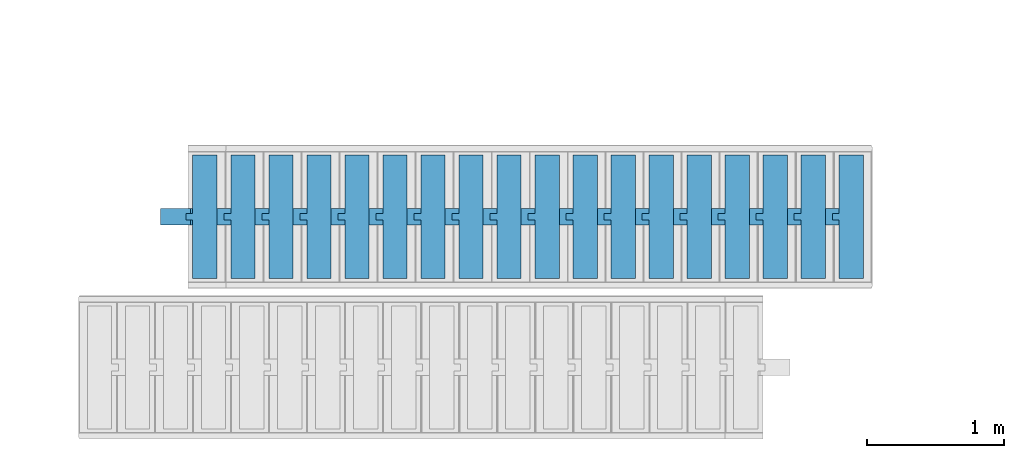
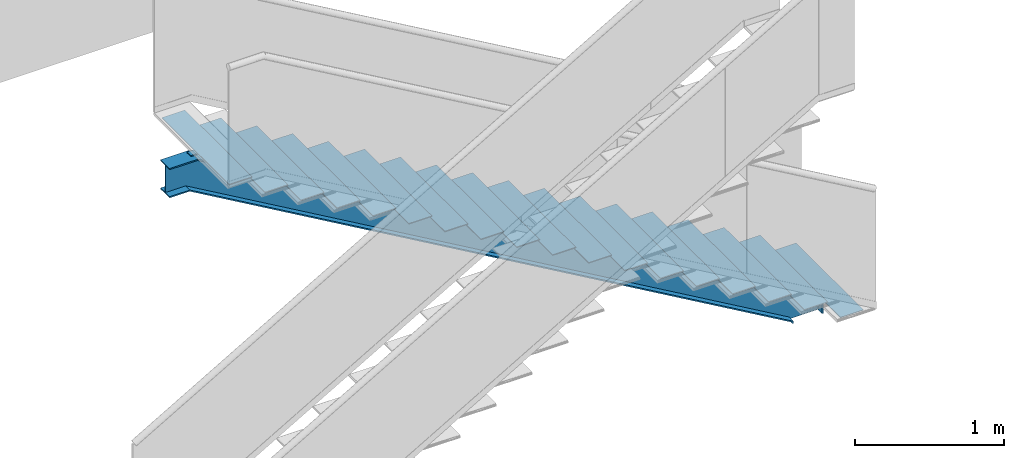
# One storey, part 4 of 22: 1 stair, 1 element without a shape of its own.
"""IFC2X3 building model written with IfcOpenShell, lengths in millimetres."""

from ifc_helpers import new_model, entity, si_unit, converted_unit, derived_unit, direction, frame, origin, place, context, subcontext, project, spatial, face_set, surface_model, material, element, aggregate, save


model = new_model("IFC2X3")

# Units and contexts
model_context = context("Model", 3, precision=0.01, world=origin(), true_north=direction((6.12303176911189e-17, 1.0)))
body_context = subcontext(model_context, "Body", "Model", "MODEL_VIEW")
ifc_project = project(units=[si_unit("LENGTHUNIT", "METRE", prefix="MILLI"), si_unit("AREAUNIT", "SQUARE_METRE"), si_unit("VOLUMEUNIT", "CUBIC_METRE"), converted_unit("PLANEANGLEUNIT", "DEGREE", entity("IfcRatioMeasure", 0.0174532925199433), si_unit("PLANEANGLEUNIT", "RADIAN"), dimensions=[0, 0, 0, 0, 0, 0, 0]), si_unit("MASSUNIT", "GRAM", prefix="KILO"), derived_unit("MASSDENSITYUNIT", [(si_unit("MASSUNIT", "GRAM", prefix="KILO"), 1), (si_unit("LENGTHUNIT", "METRE"), -3)]), si_unit("TIMEUNIT", "SECOND"), si_unit("FREQUENCYUNIT", "HERTZ"), si_unit("THERMODYNAMICTEMPERATUREUNIT", "DEGREE_CELSIUS"), derived_unit("THERMALTRANSMITTANCEUNIT", [(si_unit("MASSUNIT", "GRAM", prefix="KILO"), 1), (si_unit("THERMODYNAMICTEMPERATUREUNIT", "KELVIN"), -1), (si_unit("TIMEUNIT", "SECOND"), -3)]), derived_unit("VOLUMETRICFLOWRATEUNIT", [(si_unit("LENGTHUNIT", "METRE"), 3), (si_unit("TIMEUNIT", "SECOND"), -1)]), si_unit("ELECTRICCURRENTUNIT", "AMPERE"), si_unit("ELECTRICVOLTAGEUNIT", "VOLT"), si_unit("POWERUNIT", "WATT"), si_unit("FORCEUNIT", "NEWTON", prefix="KILO"), si_unit("ILLUMINANCEUNIT", "LUX"), si_unit("LUMINOUSFLUXUNIT", "LUMEN"), si_unit("LUMINOUSINTENSITYUNIT", "CANDELA"), derived_unit("USERDEFINED", [(si_unit("MASSUNIT", "GRAM", prefix="KILO"), -1), (si_unit("LENGTHUNIT", "METRE"), -2), (si_unit("TIMEUNIT", "SECOND"), 3), (si_unit("LUMINOUSFLUXUNIT", "LUMEN"), 1)]), derived_unit("LINEARVELOCITYUNIT", [(si_unit("LENGTHUNIT", "METRE"), 1), (si_unit("TIMEUNIT", "SECOND"), -1)]), si_unit("PRESSUREUNIT", "PASCAL"), derived_unit("USERDEFINED", [(si_unit("LENGTHUNIT", "METRE"), -2), (si_unit("MASSUNIT", "GRAM", prefix="KILO"), 1), (si_unit("TIMEUNIT", "SECOND"), -2)])], contexts=[model_context])

# Site, building, storey
site_placement = place(None, origin())
site = spatial("IfcSite", under=ifc_project, at=site_placement, Name="Default", CompositionType="ELEMENT")
building_placement = place(site_placement, origin())
building = spatial("IfcBuilding", under=site, at=building_placement, CompositionType="ELEMENT")
storey_placement = place(building_placement, frame((0.0, 0.0, -3000.0)))
storey = spatial("IfcBuildingStorey", under=building, at=storey_placement, Name="-2. Story", CompositionType="ELEMENT", Elevation=-3000.0)

# Stairs
stair_1_placement = place(storey_placement, frame((67458.85691482, 69140.9366768, 0.0)))
stair_1 = element("IfcStair", 1, at=stair_1_placement, inside=storey, Name="SF STRUCTURE - 009 1421386:SF STRUCTURE - 009 1421386", ObjectType="SF STRUCTURE - 009 1421386:SF STRUCTURE - 009 1421386", ShapeType="NOTDEFINED")
ifc_material = material(Name="Metal - Stainless Steel")
stair_2_placement = place(stair_1_placement, origin())
stair_2 = element("IfcStair", 2, at=stair_2_placement, material=ifc_material, Name="SF STRUCTURE - 009 1421386:SF STRUCTURE - 009 1421386", ObjectType="SF STRUCTURE - 009 1421386:SF STRUCTURE - 009 1421386", ShapeType="NOTDEFINED", context=body_context, shape_type="SurfaceModel", body=[
    surface_model("IfcFaceBasedSurfaceModel", [(5050.0, 510.0, 0.0), (5040.20000668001, 510.0, 0.0), (5040.20000668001, 510.0, 142.654928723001), (216.846435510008, 510.0, 2940.2), (0.0, 510.0, 2940.2), (0.0, 510.0, 2950.0), (219.482765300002, 510.0, 2950.0), (5050.0, 510.0, 148.300000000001), (5050.0, 510.0, 0.0), (5050.0, 450.0, 0.0), (5050.0, 390.0, 0.0), (5040.20000668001, 390.0, 0.0), (5040.20000668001, 446.899999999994, 0.0), (4819.80000668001, 446.899999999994, 0.0), (4819.80000668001, 390.0, 0.0), (4810.0, 390.0, 0.0), (4810.0, 510.0, 0.0), (4819.80000668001, 510.0, 0.0), (4819.80000668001, 453.10000000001, 0.0), (5040.20000668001, 453.10000000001, 0.0), (5040.20000668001, 510.0, 0.0), (5040.20000668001, 510.0, 0.0), (5040.20000668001, 453.10000000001, 0.0), (5040.20000668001, 453.10000000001, 142.654928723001), (5040.20000668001, 510.0, 142.654928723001), (216.846435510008, 510.0, 2940.2), (5040.20000668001, 510.0, 142.654928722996), (5040.20000668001, 453.10000000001, 142.654928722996), (216.846435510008, 453.10000000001, 2940.2), (0.0, 510.0, 2940.2), (216.846435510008, 510.0, 2940.2), (216.846435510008, 453.10000000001, 2940.2), (0.0, 453.10000000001, 2940.2), (0.0, 390.0, 2950.0), (0.0, 450.0, 2950.0), (0.0, 510.0, 2950.0), (0.0, 510.0, 2940.2), (0.0, 453.10000000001, 2940.2), (0.0, 453.10000000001, 2719.8), (0.0, 510.0, 2719.8), (0.0, 510.0, 2710.0), (0.0, 390.0, 2710.0), (0.0, 390.0, 2719.8), (0.0, 446.899999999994, 2719.8), (0.0, 446.899999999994, 2940.2), (0.0, 390.0, 2940.2), (0.0, 450.0, 2950.0), (219.482765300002, 450.0, 2950.0), (219.482765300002, 510.0, 2950.0), (0.0, 510.0, 2950.0), (219.482765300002, 450.0, 2950.0), (5050.0, 450.0, 148.299999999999), (5050.0, 510.0, 148.299999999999), (219.482765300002, 510.0, 2950.0), (5050.0, 450.0, 0.0), (5050.0, 510.0, 0.0), (5050.0, 510.0, 148.300000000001), (5050.0, 450.0, 148.300000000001), (5050.0, 390.0, 0.0), (5050.0, 450.0, 0.0), (5050.0, 450.0, 148.300000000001), (5050.0, 390.0, 148.300000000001), (5040.20000668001, 390.0, 0.0), (5050.0, 390.0, 0.0), (5050.0, 390.0, 148.300000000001), (219.482765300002, 390.0, 2950.0), (0.0, 390.0, 2950.0), (0.0, 390.0, 2940.2), (216.846435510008, 390.0, 2940.2), (5040.20000668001, 390.0, 142.654928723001), (5040.20000668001, 446.899999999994, 0.0), (5040.20000668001, 390.0, 0.0), (5040.20000668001, 390.0, 142.654928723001), (5040.20000668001, 446.899999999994, 142.654928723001), (4819.80000668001, 446.899999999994, 0.0), (5040.20000668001, 446.899999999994, 0.0), (5040.20000668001, 446.899999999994, 142.654928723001), (216.846435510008, 446.899999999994, 2940.2), (0.0, 446.899999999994, 2940.2), (0.0, 446.899999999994, 2719.8), (157.55591661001, 446.899999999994, 2719.8), (4819.80000668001, 446.899999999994, 15.698427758), (4819.80000668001, 390.0, 0.0), (4819.80000668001, 446.899999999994, 0.0), (4819.80000668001, 446.899999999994, 15.6984277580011), (4819.80000668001, 390.0, 15.6984277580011), (4810.0, 390.0, 0.0), (4819.80000668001, 390.0, 0.0), (4819.80000668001, 390.0, 15.6984277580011), (157.55591661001, 390.0, 2719.8), (0.0, 390.0, 2719.8), (0.0, 390.0, 2710.0), (154.919586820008, 390.0, 2710.0), (4810.0, 390.0, 10.0533564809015), (4810.0, 510.0, 0.0), (4810.0, 390.0, 0.0), (4810.0, 390.0, 10.0533564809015), (4810.0, 510.0, 10.0533564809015), (4819.80000668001, 510.0, 0.0), (4810.0, 510.0, 0.0), (4810.0, 510.0, 10.0533564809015), (154.919586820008, 510.0, 2710.0), (0.0, 510.0, 2710.0), (0.0, 510.0, 2719.8), (157.55591661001, 510.0, 2719.8), (4819.80000668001, 510.0, 15.698427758), (4819.80000668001, 453.10000000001, 0.0), (4819.80000668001, 510.0, 0.0), (4819.80000668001, 510.0, 15.6984277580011), (4819.80000668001, 453.10000000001, 15.6984277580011), (5040.20000668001, 453.100000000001, 0.0), (4819.80000668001, 453.100000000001, 0.0), (4819.80000668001, 453.100000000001, 15.6984277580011), (157.55591661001, 453.100000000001, 2719.8), (0.0, 453.100000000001, 2719.8), (0.0, 453.100000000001, 2940.2), (216.846435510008, 453.100000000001, 2940.2), (5040.20000668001, 453.100000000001, 142.654928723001), (0.0, 390.0, 2950.0), (219.482765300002, 390.0, 2950.0), (219.482765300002, 450.0, 2950.0), (0.0, 450.0, 2950.0), (0.0, 453.10000000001, 2719.8), (157.55591661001, 453.10000000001, 2719.8), (157.55591661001, 510.0, 2719.8), (0.0, 510.0, 2719.8), (0.0, 510.0, 2710.0), (154.919586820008, 510.0, 2710.0), (154.919586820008, 390.0, 2710.0), (0.0, 390.0, 2710.0), (0.0, 390.0, 2719.8), (157.55591661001, 390.0, 2719.8), (157.55591661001, 446.899999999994, 2719.8), (0.0, 446.899999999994, 2719.8), (0.0, 446.899999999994, 2940.2), (216.846435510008, 446.899999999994, 2940.2), (216.846435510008, 390.0, 2940.2), (0.0, 390.0, 2940.2), (219.482765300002, 390.0, 2950.0), (5050.0, 390.0, 148.299999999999), (5050.0, 450.0, 148.299999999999), (219.482765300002, 450.0, 2950.0), (216.846435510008, 446.899999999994, 2940.2), (5040.20000668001, 446.899999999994, 142.654928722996), (5040.20000668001, 390.0, 142.654928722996), (216.846435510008, 390.0, 2940.2), (157.55591661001, 390.0, 2719.8), (4819.80000668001, 390.0, 15.6984277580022), (4819.80000668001, 446.899999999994, 15.6984277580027), (157.55591661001, 446.899999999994, 2719.8), (154.919586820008, 510.0, 2710.0), (4810.0, 510.0, 10.0533564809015), (4810.0, 390.0, 10.0533564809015), (154.919586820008, 390.0, 2710.0), (157.55591661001, 453.10000000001, 2719.8), (4819.80000668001, 453.10000000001, 15.6984277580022), (4819.80000668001, 510.0, 15.6984277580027), (157.55591661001, 510.0, 2719.8), (235.000010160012, 900.0, 2975.0), (235.000010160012, 0.0, 2975.0), (412.777784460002, 0.0, 2975.0), (412.777784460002, 900.0, 2975.0), (235.000010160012, 900.0, 2970.0), (235.000010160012, 0.0, 2970.0), (412.777784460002, 0.0, 2970.0), (412.777784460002, 900.0, 2970.0), (512.777784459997, 0.0, 2813.88888889), (690.55556224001, 0.0, 2813.88888889), (690.55556224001, 900.0, 2813.88888889), (512.777784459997, 900.0, 2813.88888889), (512.777784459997, 0.0, 2808.88888889), (690.55556224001, 0.0, 2808.88888889), (690.55556224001, 900.0, 2808.88888889), (512.777784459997, 900.0, 2808.88888889), (790.555562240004, 0.0, 2652.77777778), (968.333340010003, 0.0, 2652.77777778), (968.333340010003, 900.0, 2652.77777778), (790.555562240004, 900.0, 2652.77777778), (790.555562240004, 0.0, 2647.77777778), (968.333340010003, 0.0, 2647.77777778), (968.333340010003, 900.0, 2647.77777778), (790.555562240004, 900.0, 2647.77777778), (1068.33334001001, 0.0, 2491.66666667), (1246.11111779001, 0.0, 2491.66666667), (1246.11111779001, 900.0, 2491.66666667), (1068.33334001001, 900.0, 2491.66666667), (1068.33334001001, 0.0, 2486.66666667), (1246.11111779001, 0.0, 2486.66666667), (1246.11111779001, 900.0, 2486.66666667), (1068.33334001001, 900.0, 2486.66666667), (1346.11111779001, 0.0, 2330.55555556), (1523.88889557, 0.0, 2330.55555556), (1523.88889557, 900.0, 2330.55555556), (1346.11111779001, 900.0, 2330.55555556), (1346.11111779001, 0.0, 2325.55555556), (1523.88889557, 0.0, 2325.55555556), (1523.88889557, 900.0, 2325.55555556), (1346.11111779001, 900.0, 2325.55555556), (1623.88889557, 0.0, 2169.44444444), (1801.66667335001, 0.0, 2169.44444444), (1801.66667335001, 900.0, 2169.44444444), (1623.88889557, 900.0, 2169.44444444), (1623.88889557, 0.0, 2164.44444444), (1801.66667335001, 0.0, 2164.44444444), (1801.66667335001, 900.0, 2164.44444444), (1623.88889557, 900.0, 2164.44444444), (1901.66667335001, 0.0, 2008.33333333), (2079.44445112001, 0.0, 2008.33333333), (2079.44445112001, 900.0, 2008.33333333), (1901.66667335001, 900.0, 2008.33333333), (1901.66667335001, 0.0, 2003.33333333), (2079.44445112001, 0.0, 2003.33333333), (2079.44445112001, 900.0, 2003.33333333), (1901.66667335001, 900.0, 2003.33333333), (2179.44445112, 0.0, 1847.22222222), (2357.22222890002, 0.0, 1847.22222222), (2357.22222890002, 900.0, 1847.22222222), (2179.44445112, 900.0, 1847.22222222), (2179.44445112, 0.0, 1842.22222222), (2357.22222890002, 0.0, 1842.22222222), (2357.22222890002, 900.0, 1842.22222222), (2179.44445112, 900.0, 1842.22222222), (2457.22222890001, 0.0, 1686.11111111), (2635.00000668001, 0.0, 1686.11111111), (2635.00000668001, 900.0, 1686.11111111), (2457.22222890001, 900.0, 1686.11111111), (2457.22222890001, 0.0, 1681.11111111), (2635.00000668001, 0.0, 1681.11111111), (2635.00000668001, 900.0, 1681.11111111), (2457.22222890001, 900.0, 1681.11111111), (2735.00000668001, 0.0, 1525.0), (2912.77778446, 0.0, 1525.0), (2912.77778446, 900.0, 1525.0), (2735.00000668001, 900.0, 1525.0), (2735.00000668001, 0.0, 1520.0), (2912.77778446, 0.0, 1520.0), (2912.77778446, 900.0, 1520.0), (2735.00000668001, 900.0, 1520.0), (3012.77778446, 0.0, 1363.88888889), (3190.55556224, 0.0, 1363.88888889), (3190.55556224, 900.0, 1363.88888889), (3012.77778446, 900.0, 1363.88888889), (3012.77778446, 0.0, 1358.88888889), (3190.55556224, 0.0, 1358.88888889), (3190.55556224, 900.0, 1358.88888889), (3012.77778446, 900.0, 1358.88888889), (3290.55556224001, 0.0, 1202.77777778), (3468.33334001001, 0.0, 1202.77777778), (3468.33334001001, 900.0, 1202.77777778), (3290.55556224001, 900.0, 1202.77777778), (3290.55556224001, 0.0, 1197.77777778), (3468.33334001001, 0.0, 1197.77777778), (3468.33334001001, 900.0, 1197.77777778), (3290.55556224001, 900.0, 1197.77777778), (3568.33334001, 0.0, 1041.666666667), (3746.11111779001, 0.0, 1041.666666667), (3746.11111779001, 900.0, 1041.666666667), (3568.33334001, 900.0, 1041.666666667), (3568.33334001, 0.0, 1036.666666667), (3746.11111779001, 0.0, 1036.666666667), (3746.11111779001, 900.0, 1036.666666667), (3568.33334001, 900.0, 1036.666666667), (3846.11111779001, 0.0, 880.555555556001), (4023.88889557, 0.0, 880.555555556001), (4023.88889557, 900.0, 880.555555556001), (3846.11111779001, 900.0, 880.555555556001), (3846.11111779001, 0.0, 875.555555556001), (4023.88889557, 0.0, 875.555555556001), (4023.88889557, 900.0, 875.555555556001), (3846.11111779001, 900.0, 875.555555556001), (4123.88889557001, 0.0, 719.444444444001), (4301.66667334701, 0.0, 719.444444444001), (4301.66667334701, 900.0, 719.444444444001), (4123.88889557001, 900.0, 719.444444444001), (4123.88889557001, 0.0, 714.444444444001), (4301.66667334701, 0.0, 714.444444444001), (4301.66667334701, 900.0, 714.444444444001), (4123.88889557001, 900.0, 714.444444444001), (4401.66667334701, 0.0, 558.333333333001), (4579.44445112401, 0.0, 558.333333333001), (4579.44445112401, 900.0, 558.333333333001), (4401.66667334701, 900.0, 558.333333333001), (4401.66667334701, 0.0, 553.333333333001), (4579.44445112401, 0.0, 553.333333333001), (4579.44445112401, 900.0, 553.333333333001), (4401.66667334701, 900.0, 553.333333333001), (4679.44445112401, 0.0, 397.222222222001), (4857.222228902, 0.0, 397.222222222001), (4857.222228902, 900.0, 397.222222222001), (4679.44445112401, 900.0, 397.222222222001), (4679.44445112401, 0.0, 392.222222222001), (4857.222228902, 0.0, 392.222222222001), (4857.222228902, 900.0, 392.222222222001), (4679.44445112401, 900.0, 392.222222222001), (4957.22222890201, 0.0, 236.111111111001), (5135.0, 0.0, 236.111111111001), (5135.0, 900.0, 236.111111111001), (4957.22222890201, 900.0, 236.111111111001), (4957.22222890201, 0.0, 231.111111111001), (5135.0, 0.0, 231.111111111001), (5135.0, 900.0, 231.111111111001), (4957.22222890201, 900.0, 231.111111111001), (334.655798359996, 475.0, 2883.19964083), (326.005486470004, 475.0, 2888.21682172), (367.639729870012, 475.0, 2960.0), (185.000006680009, 475.0, 2960.0), (185.000006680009, 475.0, 2970.0), (385.000006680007, 475.0, 2970.0), (334.655798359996, 425.0, 2883.19964083), (326.005486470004, 425.0, 2888.21682172), (367.639729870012, 425.0, 2960.0), (185.000006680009, 425.0, 2960.0), (185.000006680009, 425.0, 2970.0), (385.000006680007, 425.0, 2970.0), (480.019163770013, 475.0, 2798.88888889), (462.777784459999, 475.0, 2808.88888889), (662.777784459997, 475.0, 2808.88888889), (612.433576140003, 475.0, 2722.08852971), (603.783264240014, 475.0, 2727.10571061), (645.417507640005, 475.0, 2798.88888889), (480.019163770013, 425.0, 2798.88888889), (645.417507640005, 425.0, 2798.88888889), (603.783264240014, 425.0, 2727.10571061), (612.433576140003, 425.0, 2722.08852971), (662.777784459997, 425.0, 2808.88888889), (462.777784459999, 425.0, 2808.88888889), (757.796941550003, 475.0, 2637.77777778), (740.555562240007, 475.0, 2647.77777778), (940.555562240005, 475.0, 2647.77777778), (890.211353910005, 475.0, 2560.9774186), (881.561042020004, 475.0, 2565.9945995), (923.195285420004, 475.0, 2637.77777778), (757.796941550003, 425.0, 2637.77777778), (923.195285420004, 425.0, 2637.77777778), (881.561042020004, 425.0, 2565.9945995), (890.211353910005, 425.0, 2560.9774186), (940.555562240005, 425.0, 2647.77777778), (740.555562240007, 425.0, 2647.77777778), (1035.57471932, 475.0, 2476.66666667), (1018.33334001, 475.0, 2486.66666667), (1218.33334001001, 475.0, 2486.66666667), (1167.98913169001, 475.0, 2399.86630749), (1159.33881980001, 475.0, 2404.88348839), (1200.97306320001, 475.0, 2476.66666667), (1035.57471932, 425.0, 2476.66666667), (1200.97306320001, 425.0, 2476.66666667), (1159.33881980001, 425.0, 2404.88348839), (1167.98913169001, 425.0, 2399.86630749), (1218.33334001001, 425.0, 2486.66666667), (1018.33334001, 425.0, 2486.66666667), (1313.35249710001, 475.0, 2315.55555556), (1296.11111779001, 475.0, 2325.55555556), (1496.11111779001, 475.0, 2325.55555556), (1445.76690947, 475.0, 2238.75519638), (1437.11659758, 475.0, 2243.77237728), (1478.75084098, 475.0, 2315.55555556), (1313.35249710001, 425.0, 2315.55555556), (1478.75084098, 425.0, 2315.55555556), (1437.11659758, 425.0, 2243.77237728), (1445.76690947, 425.0, 2238.75519638), (1496.11111779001, 425.0, 2325.55555556), (1296.11111779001, 425.0, 2325.55555556), (1591.13027488, 475.0, 2154.44444444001), (1573.88889557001, 475.0, 2164.44444444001), (1773.88889557, 475.0, 2164.44444444), (1723.54468725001, 475.0, 2077.64408527), (1714.89437536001, 475.0, 2082.66126617), (1756.52861876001, 475.0, 2154.44444444), (1591.13027488, 425.0, 2154.44444444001), (1756.52861876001, 425.0, 2154.44444444), (1714.89437536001, 425.0, 2082.66126617), (1723.54468725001, 425.0, 2077.64408527), (1773.88889557, 425.0, 2164.44444444), (1573.88889557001, 425.0, 2164.44444444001), (1868.90805266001, 475.0, 1993.33333333), (1851.66667335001, 475.0, 2003.33333333), (2051.66667335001, 475.0, 2003.33333333), (2001.32246503, 475.0, 1916.53297416), (1992.67215313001, 475.0, 1921.55015506), (2034.30639653, 475.0, 1993.33333333), (1868.90805266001, 425.0, 1993.33333333), (2034.30639653, 425.0, 1993.33333333), (1992.67215313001, 425.0, 1921.55015506), (2001.32246503, 425.0, 1916.53297416), (2051.66667335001, 425.0, 2003.33333333), (1851.66667335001, 425.0, 2003.33333333), (2146.68583043, 475.0, 1832.22222222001), (2129.44445112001, 475.0, 1842.22222222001), (2329.44445112, 475.0, 1842.22222222), (2279.1002428, 475.0, 1755.42186305), (2270.44993091, 475.0, 1760.43904395), (2312.08417431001, 475.0, 1832.22222222), (2146.68583043, 425.0, 1832.22222222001), (2312.08417431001, 425.0, 1832.22222222), (2270.44993091, 425.0, 1760.43904395), (2279.1002428, 425.0, 1755.42186305), (2329.44445112, 425.0, 1842.22222222), (2129.44445112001, 425.0, 1842.22222222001), (2424.46360821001, 475.0, 1671.11111111), (2407.22222890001, 475.0, 1681.11111111), (2607.22222890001, 475.0, 1681.11111111), (2556.87802058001, 475.0, 1594.31075194), (2548.22770869, 475.0, 1599.32793283), (2589.86195209, 475.0, 1671.11111111), (2424.46360821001, 425.0, 1671.11111111), (2589.86195209, 425.0, 1671.11111111), (2548.22770869, 425.0, 1599.32793283), (2556.87802058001, 425.0, 1594.31075194), (2607.22222890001, 425.0, 1681.11111111), (2407.22222890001, 425.0, 1681.11111111), (2702.24138599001, 475.0, 1510.0), (2685.00000668, 475.0, 1520.0), (2885.00000668, 475.0, 1520.0), (2834.65579836, 475.0, 1433.19964083), (2826.00548647, 475.0, 1438.21682172), (2867.63972987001, 475.0, 1510.0), (2702.24138599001, 425.0, 1510.0), (2867.63972987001, 425.0, 1510.0), (2826.00548647, 425.0, 1438.21682172), (2834.65579836, 425.0, 1433.19964083), (2885.00000668, 425.0, 1520.0), (2685.00000668, 425.0, 1520.0), (2980.01916377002, 475.0, 1348.88888889), (2962.77778446, 475.0, 1358.88888889), (3162.77778446, 475.0, 1358.88888889), (3112.43357614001, 475.0, 1272.08852971), (3103.78326424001, 475.0, 1277.10571061), (3145.41750764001, 475.0, 1348.88888889), (2980.01916377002, 425.0, 1348.88888889), (3145.41750764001, 425.0, 1348.88888889), (3103.78326424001, 425.0, 1277.10571061), (3112.43357614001, 425.0, 1272.08852971), (3162.77778446, 425.0, 1358.88888889), (2962.77778446, 425.0, 1358.88888889), (3257.79694155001, 475.0, 1187.77777778), (3240.55556224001, 475.0, 1197.77777778), (3440.55556224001, 475.0, 1197.77777778), (3390.21135391, 475.0, 1110.9774186), (3381.56104202, 475.0, 1115.9945995), (3423.19528542, 475.0, 1187.77777778), (3257.79694155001, 425.0, 1187.77777778), (3423.19528542, 425.0, 1187.77777778), (3381.56104202, 425.0, 1115.9945995), (3390.21135391, 425.0, 1110.9774186), (3440.55556224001, 425.0, 1197.77777778), (3240.55556224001, 425.0, 1197.77777778), (3535.57471932, 475.0, 1026.666666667), (3518.33334001, 475.0, 1036.666666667), (3718.33334001, 475.0, 1036.666666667), (3667.98913169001, 475.0, 949.866307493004), (3659.33881980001, 475.0, 954.883488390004), (3700.97306320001, 475.0, 1026.666666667), (3535.57471932, 425.0, 1026.666666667), (3700.97306320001, 425.0, 1026.666666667), (3659.33881980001, 425.0, 954.883488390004), (3667.98913169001, 425.0, 949.866307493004), (3718.33334001, 425.0, 1036.666666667), (3518.33334001, 425.0, 1036.666666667), (3813.35249710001, 475.0, 865.555555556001), (3796.11111779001, 475.0, 875.555555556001), (3996.11111779, 475.0, 875.555555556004), (3945.76690947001, 475.0, 788.755196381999), (3937.11659758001, 475.0, 793.772377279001), (3978.75084098, 475.0, 865.555555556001), (3813.35249710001, 425.0, 865.555555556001), (3978.75084098, 425.0, 865.555555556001), (3937.11659758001, 425.0, 793.772377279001), (3945.76690947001, 425.0, 788.755196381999), (3996.11111779, 425.0, 875.555555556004), (3796.11111779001, 425.0, 875.555555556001), (4091.13027488, 475.0, 704.444444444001), (4073.88889557, 475.0, 714.444444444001), (4273.88889556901, 475.0, 714.444444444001), (4223.544687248, 475.0, 627.644085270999), (4214.89437535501, 475.0, 632.661266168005), (4256.52861875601, 475.0, 704.444444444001), (4091.13027488, 425.0, 704.444444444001), (4256.52861875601, 425.0, 704.444444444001), (4214.89437535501, 425.0, 632.661266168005), (4223.544687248, 425.0, 627.644085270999), (4273.88889556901, 425.0, 714.444444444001), (4073.88889557, 425.0, 714.444444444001), (4368.90805265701, 475.0, 543.333333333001), (4351.66667334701, 475.0, 553.333333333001), (4551.666673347, 475.0, 553.333333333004), (4501.322465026, 475.0, 466.532974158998), (4492.672153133, 475.0, 471.550155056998), (4534.306396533, 475.0, 543.333333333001), (4368.90805265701, 425.0, 543.333333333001), (4534.306396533, 425.0, 543.333333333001), (4492.672153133, 425.0, 471.550155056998), (4501.322465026, 425.0, 466.532974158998), (4551.666673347, 425.0, 553.333333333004), (4351.66667334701, 425.0, 553.333333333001), (4646.68583043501, 475.0, 382.222222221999), (4629.444451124, 475.0, 392.222222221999), (4829.44445112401, 475.0, 392.222222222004), (4779.100242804, 475.0, 305.421863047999), (4770.449930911, 475.0, 310.439043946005), (4812.084174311, 475.0, 382.222222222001), (4646.68583043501, 425.0, 382.222222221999), (4812.084174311, 425.0, 382.222222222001), (4770.449930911, 425.0, 310.439043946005), (4779.100242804, 425.0, 305.421863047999), (4829.44445112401, 425.0, 392.222222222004), (4629.444451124, 425.0, 392.222222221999), (4924.46360821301, 475.0, 221.111111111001), (4907.22222890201, 475.0, 231.111111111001), (5107.22222890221, 475.0, 231.111111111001), (5050.0, 475.0, 132.452107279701), (5050.0, 475.0, 148.300000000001), (5048.22770868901, 475.0, 149.327932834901), (5089.861952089, 475.0, 221.111111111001), (4924.46360821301, 425.0, 221.111111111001), (5089.861952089, 425.0, 221.111111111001), (5048.22770868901, 425.0, 149.327932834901), (5050.0, 425.0, 148.300000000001), (5050.0, 425.0, 132.452107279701), (5107.22222890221, 425.0, 231.111111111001), (4907.22222890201, 425.0, 231.111111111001)], [face_set([[[0, 1, 2, 3, 4, 5, 6, 7]]]), face_set([[[8, 9, 10, 11, 12, 13, 14, 15, 16, 17, 18, 19, 20]]]), face_set([[[21, 22, 23, 24]]]), face_set([[[25, 26, 27, 28]]]), face_set([[[29, 30, 31, 32]]]), face_set([[[33, 34, 35, 36, 37, 38, 39, 40, 41, 42, 43, 44, 45]]]), face_set([[[46, 47, 48, 49]]]), face_set([[[50, 51, 52, 53]]]), face_set([[[54, 55, 56, 57]]]), face_set([[[58, 59, 60, 61]]]), face_set([[[62, 63, 64, 65, 66, 67, 68, 69]]]), face_set([[[70, 71, 72, 73]]]), face_set([[[74, 75, 76, 77, 78, 79, 80, 81]]]), face_set([[[82, 83, 84, 85]]]), face_set([[[86, 87, 88, 89, 90, 91, 92, 93]]]), face_set([[[94, 95, 96, 97]]]), face_set([[[98, 99, 100, 101, 102, 103, 104, 105]]]), face_set([[[106, 107, 108, 109]]]), face_set([[[110, 111, 112, 113, 114, 115, 116, 117]]]), face_set([[[118, 119, 120, 121]]]), face_set([[[122, 123, 124, 125]]]), face_set([[[126, 127, 128, 129]]]), face_set([[[130, 131, 132, 133]]]), face_set([[[134, 135, 136, 137]]]), face_set([[[138, 139, 140, 141]]]), face_set([[[142, 143, 144, 145]]]), face_set([[[146, 147, 148, 149]]]), face_set([[[150, 151, 152, 153]]]), face_set([[[154, 155, 156, 157]]]), face_set([[[158, 159, 160, 161]], [[162, 163, 164, 165]], [[159, 163, 162, 158]], [[160, 159, 163, 164]], [[161, 160, 164, 165]], [[158, 161, 165, 162]]]), face_set([[[166, 167, 168, 169]], [[170, 171, 172, 173]], [[167, 166, 170, 171]], [[168, 167, 171, 172]], [[169, 168, 172, 173]], [[166, 170, 173, 169]]]), face_set([[[174, 175, 176, 177]], [[178, 179, 180, 181]], [[175, 174, 178, 179]], [[176, 175, 179, 180]], [[177, 176, 180, 181]], [[174, 178, 181, 177]]]), face_set([[[182, 183, 184, 185]], [[186, 187, 188, 189]], [[183, 182, 186, 187]], [[184, 183, 187, 188]], [[185, 184, 188, 189]], [[182, 186, 189, 185]]]), face_set([[[190, 191, 192, 193]], [[194, 195, 196, 197]], [[191, 190, 194, 195]], [[192, 191, 195, 196]], [[193, 192, 196, 197]], [[190, 194, 197, 193]]]), face_set([[[198, 199, 200, 201]], [[202, 203, 204, 205]], [[199, 198, 202, 203]], [[200, 199, 203, 204]], [[201, 200, 204, 205]], [[198, 202, 205, 201]]]), face_set([[[206, 207, 208, 209]], [[210, 211, 212, 213]], [[207, 206, 210, 211]], [[208, 207, 211, 212]], [[209, 208, 212, 213]], [[206, 210, 213, 209]]]), face_set([[[214, 215, 216, 217]], [[218, 219, 220, 221]], [[215, 214, 218, 219]], [[216, 215, 219, 220]], [[217, 216, 220, 221]], [[214, 218, 221, 217]]]), face_set([[[222, 223, 224, 225]], [[226, 227, 228, 229]], [[223, 222, 226, 227]], [[224, 223, 227, 228]], [[225, 224, 228, 229]], [[222, 226, 229, 225]]]), face_set([[[230, 231, 232, 233]], [[234, 235, 236, 237]], [[231, 230, 234, 235]], [[232, 231, 235, 236]], [[233, 232, 236, 237]], [[230, 234, 237, 233]]]), face_set([[[238, 239, 240, 241]], [[242, 243, 244, 245]], [[239, 238, 242, 243]], [[240, 239, 243, 244]], [[241, 240, 244, 245]], [[238, 242, 245, 241]]]), face_set([[[246, 247, 248, 249]], [[250, 251, 252, 253]], [[247, 246, 250, 251]], [[248, 247, 251, 252]], [[249, 248, 252, 253]], [[246, 250, 253, 249]]]), face_set([[[254, 255, 256, 257]], [[258, 259, 260, 261]], [[255, 254, 258, 259]], [[256, 255, 259, 260]], [[257, 256, 260, 261]], [[254, 258, 261, 257]]]), face_set([[[262, 263, 264, 265]], [[266, 267, 268, 269]], [[263, 262, 266, 267]], [[264, 263, 267, 268]], [[265, 264, 268, 269]], [[262, 266, 269, 265]]]), face_set([[[270, 271, 272, 273]], [[274, 275, 276, 277]], [[271, 270, 274, 275]], [[272, 271, 275, 276]], [[273, 272, 276, 277]], [[270, 274, 277, 273]]]), face_set([[[278, 279, 280, 281]], [[282, 283, 284, 285]], [[279, 278, 282, 283]], [[280, 279, 283, 284]], [[281, 280, 284, 285]], [[278, 282, 285, 281]]]), face_set([[[286, 287, 288, 289]], [[290, 291, 292, 293]], [[287, 286, 290, 291]], [[288, 287, 291, 292]], [[289, 288, 292, 293]], [[286, 290, 293, 289]]]), face_set([[[294, 295, 296, 297]], [[298, 299, 300, 301]], [[295, 294, 298, 299]], [[296, 295, 299, 300]], [[297, 296, 300, 301]], [[294, 298, 301, 297]]]), face_set([[[302, 303, 304, 305, 306, 307]], [[308, 309, 310, 311, 312, 313]], [[303, 309, 308, 302]], [[304, 303, 309, 310]], [[305, 311, 310, 304]], [[306, 305, 311, 312]], [[307, 306, 312, 313]], [[302, 308, 313, 307]]]), face_set([[[314, 315, 316, 317, 318, 319]], [[320, 321, 322, 323, 324, 325]], [[315, 325, 320, 314]], [[316, 315, 325, 324]], [[317, 323, 324, 316]], [[318, 322, 323, 317]], [[319, 318, 322, 321]], [[314, 320, 321, 319]]]), face_set([[[326, 327, 328, 329, 330, 331]], [[332, 333, 334, 335, 336, 337]], [[327, 337, 332, 326]], [[328, 327, 337, 336]], [[329, 335, 336, 328]], [[330, 334, 335, 329]], [[331, 330, 334, 333]], [[326, 332, 333, 331]]]), face_set([[[338, 339, 340, 341, 342, 343]], [[344, 345, 346, 347, 348, 349]], [[339, 349, 344, 338]], [[340, 339, 349, 348]], [[341, 347, 348, 340]], [[342, 346, 347, 341]], [[343, 342, 346, 345]], [[338, 344, 345, 343]]]), face_set([[[350, 351, 352, 353, 354, 355]], [[356, 357, 358, 359, 360, 361]], [[351, 361, 356, 350]], [[352, 351, 361, 360]], [[353, 359, 360, 352]], [[354, 358, 359, 353]], [[355, 354, 358, 357]], [[350, 356, 357, 355]]]), face_set([[[362, 363, 364, 365, 366, 367]], [[368, 369, 370, 371, 372, 373]], [[363, 373, 368, 362]], [[364, 363, 373, 372]], [[365, 364, 372, 371]], [[366, 370, 371, 365]], [[367, 369, 370, 366]], [[362, 368, 369, 367]]]), face_set([[[374, 375, 376, 377, 378, 379]], [[380, 381, 382, 383, 384, 385]], [[375, 385, 380, 374]], [[376, 375, 385, 384]], [[377, 376, 384, 383]], [[378, 382, 383, 377]], [[379, 381, 382, 378]], [[374, 380, 381, 379]]]), face_set([[[386, 387, 388, 389, 390, 391]], [[392, 393, 394, 395, 396, 397]], [[387, 397, 392, 386]], [[388, 387, 397, 396]], [[389, 388, 396, 395]], [[390, 394, 395, 389]], [[391, 393, 394, 390]], [[386, 392, 393, 391]]]), face_set([[[398, 399, 400, 401, 402, 403]], [[404, 405, 406, 407, 408, 409]], [[399, 409, 404, 398]], [[400, 399, 409, 408]], [[401, 400, 408, 407]], [[402, 406, 407, 401]], [[403, 405, 406, 402]], [[398, 404, 405, 403]]]), face_set([[[410, 411, 412, 413, 414, 415]], [[416, 417, 418, 419, 420, 421]], [[411, 421, 416, 410]], [[412, 411, 421, 420]], [[413, 412, 420, 419]], [[414, 418, 419, 413]], [[415, 417, 418, 414]], [[410, 416, 417, 415]]]), face_set([[[422, 423, 424, 425, 426, 427]], [[428, 429, 430, 431, 432, 433]], [[423, 433, 428, 422]], [[424, 423, 433, 432]], [[425, 424, 432, 431]], [[426, 430, 431, 425]], [[427, 429, 430, 426]], [[422, 428, 429, 427]]]), face_set([[[434, 435, 436, 437, 438, 439]], [[440, 441, 442, 443, 444, 445]], [[435, 445, 440, 434]], [[436, 435, 445, 444]], [[437, 436, 444, 443]], [[438, 442, 443, 437]], [[439, 441, 442, 438]], [[434, 440, 441, 439]]]), face_set([[[446, 447, 448, 449, 450, 451]], [[452, 453, 454, 455, 456, 457]], [[447, 457, 452, 446]], [[448, 447, 457, 456]], [[449, 448, 456, 455]], [[450, 454, 455, 449]], [[451, 453, 454, 450]], [[446, 452, 453, 451]]]), face_set([[[458, 459, 460, 461, 462, 463]], [[464, 465, 466, 467, 468, 469]], [[459, 469, 464, 458]], [[460, 459, 469, 468]], [[461, 460, 468, 467]], [[462, 466, 467, 461]], [[463, 465, 466, 462]], [[458, 464, 465, 463]]]), face_set([[[470, 471, 472, 473, 474, 475]], [[476, 477, 478, 479, 480, 481]], [[471, 481, 476, 470]], [[472, 471, 481, 480]], [[473, 472, 480, 479]], [[474, 478, 479, 473]], [[475, 477, 478, 474]], [[470, 476, 477, 475]]]), face_set([[[482, 483, 484, 485, 486, 487]], [[488, 489, 490, 491, 492, 493]], [[483, 493, 488, 482]], [[484, 483, 493, 492]], [[485, 484, 492, 491]], [[486, 490, 491, 485]], [[487, 489, 490, 486]], [[482, 488, 489, 487]]]), face_set([[[494, 495, 496, 497, 498, 499]], [[500, 501, 502, 503, 504, 505]], [[495, 505, 500, 494]], [[496, 495, 505, 504]], [[497, 496, 504, 503]], [[498, 502, 503, 497]], [[499, 501, 502, 498]], [[494, 500, 501, 499]]]), face_set([[[506, 507, 508, 509, 510, 511, 512]], [[513, 514, 515, 516, 517, 518, 519]], [[507, 519, 513, 506]], [[508, 507, 519, 518]], [[509, 508, 518, 517]], [[510, 516, 517, 509]], [[511, 515, 516, 510]], [[512, 514, 515, 511]], [[506, 513, 514, 512]]])]),
])
aggregate(stair_1, [stair_2])

save(model, "model.ifc")
